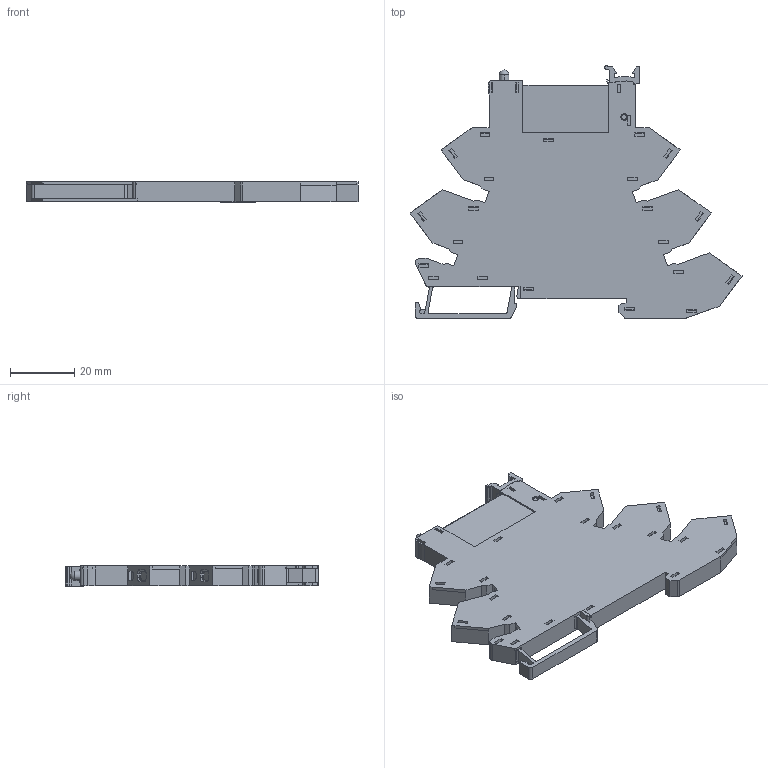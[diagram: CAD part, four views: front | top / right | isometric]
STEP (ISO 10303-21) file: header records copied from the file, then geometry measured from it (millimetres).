
FILE_DESCRIPTION (( 'STEP AP203' ), '1' );
FILE_NAME ('SNC05-S +RNC 俋倛.STEP', '2022-12-30T05:13:04', ( '' ), ( '' ), 'SwSTEP 2.0', 'SolidWorks 2018', '' );
FILE_SCHEMA (( 'CONFIG_CONTROL_DESIGN' ));
Length unit declared in the file: millimetre
Products named in the file (1): SNC05-S +RNC 俋倛
Bounding box: 103 x 78.65 x 6.3 mm (x, y, z)
Volume: 29096.3 mm3; surface area: 15703.7 mm2
Topology: 1 solids, 1 shells, 951 faces, 2740 edges, 1803 vertices
Faces by surface type: plane 813, cylinder 112, bspline 11, cone 10, torus 4, sphere 1
Entity records: 31093 total; most frequent: CARTESIAN_POINT 6149, ORIENTED_EDGE 5476, DIRECTION 4695, EDGE_CURVE 2738, LINE 2391, VECTOR 2391, VERTEX_POINT 1802, AXIS2_PLACEMENT_3D 1152
